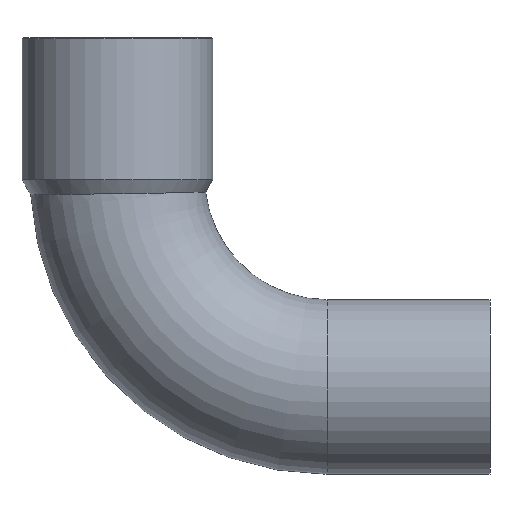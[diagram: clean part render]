
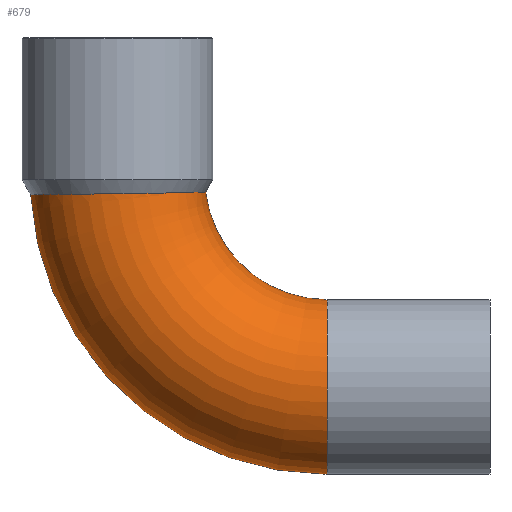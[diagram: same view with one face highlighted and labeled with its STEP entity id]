
A CAD part, front view. The second image highlights one B-rep face of the part: STEP entity #679.
In plain terms, the highlighted toroidal (fillet/blend) face has major radius 18 mm and minor radius 7.5 mm.
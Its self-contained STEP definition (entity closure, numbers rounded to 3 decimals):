
#49=CARTESIAN_POINT('',(-3.422,0.,-1.474));
#50=VERTEX_POINT('',#49);
#51=CARTESIAN_POINT('',(22.035,0.,-25.5));
#52=VERTEX_POINT('',#51);
#53=CARTESIAN_POINT('',(22.035,0.,0.0));
#54=DIRECTION('',(0.0,-1.0,0.0));
#55=DIRECTION('',(0.0,0.0,-1.0));
#56=AXIS2_PLACEMENT_3D('',#53,#54,#55);
#57=CIRCLE('',#56,25.5);
#58=EDGE_CURVE('',#50,#52,#57,.T.);
#60=CARTESIAN_POINT('',(11.612,0.,-1.267));
#61=VERTEX_POINT('',#60);
#85=CARTESIAN_POINT('',(22.035,0.,-10.5));
#86=VERTEX_POINT('',#85);
#87=CARTESIAN_POINT('',(22.035,0.,0.0));
#88=DIRECTION('',(0.0,1.0,0.0));
#89=DIRECTION('',(0.0,0.0,-1.0));
#90=AXIS2_PLACEMENT_3D('',#87,#88,#89);
#91=CIRCLE('',#90,10.5);
#92=EDGE_CURVE('',#86,#61,#91,.T.);
#210=CARTESIAN_POINT('',(11.612,0.,-1.267));
#211=CARTESIAN_POINT('',(11.612,-0.064,-1.267));
#212=CARTESIAN_POINT('',(11.611,-0.128,-1.267));
#213=CARTESIAN_POINT('',(11.584,-1.166,-1.268));
#214=CARTESIAN_POINT('',(11.369,-2.126,-1.273));
#215=CARTESIAN_POINT('',(10.58,-3.914,-1.292));
#216=CARTESIAN_POINT('',(10.013,-4.723,-1.304));
#217=CARTESIAN_POINT('',(8.599,-6.081,-1.332));
#218=CARTESIAN_POINT('',(7.765,-6.615,-1.347));
#219=CARTESIAN_POINT('',(5.94,-7.335,-1.375));
#220=CARTESIAN_POINT('',(4.966,-7.513,-1.389));
#221=CARTESIAN_POINT('',(3.007,-7.486,-1.413));
#222=CARTESIAN_POINT('',(2.04,-7.281,-1.424));
#223=CARTESIAN_POINT('',(0.24,-6.514,-1.442));
#224=CARTESIAN_POINT('',(-0.576,-5.959,-1.45));
#225=CARTESIAN_POINT('',(-1.948,-4.569,-1.462));
#226=CARTESIAN_POINT('',(-2.491,-3.747,-1.466));
#227=CARTESIAN_POINT('',(-3.232,-1.942,-1.472));
#228=CARTESIAN_POINT('',(-3.422,-0.975,-1.474));
#229=CARTESIAN_POINT('',(-3.422,0.,-1.474));
#230=B_SPLINE_CURVE_WITH_KNOTS('',3,(#210,#211,#212,#213,#214,#215,#216,#217,#218,#219,#220,#221,#222,#223,#224,#225,#226,#227,#228,#229),.UNSPECIFIED.,.F.,.U.,(4,2,2,2,2,2,2,2,2,4),(-2.366,-2.347,-2.055,-1.761,-1.467,-1.172,-0.879,-0.585,-0.293,0.0),.UNSPECIFIED.);
#231=EDGE_CURVE('',#61,#50,#230,.T.);
#535=CARTESIAN_POINT('',(22.035,0.,-18.0));
#536=DIRECTION('',(-1.0,0.0,0.0));
#537=DIRECTION('',(0.0,0.0,-1.0));
#538=AXIS2_PLACEMENT_3D('',#535,#536,#537);
#539=CIRCLE('',#538,7.5);
#540=EDGE_CURVE('',#52,#86,#539,.T.);
#668=CARTESIAN_POINT('',(22.035,0.,0.0));
#669=DIRECTION('',(0.0,-1.0,0.0));
#670=DIRECTION('',(0.0,0.0,-1.0));
#671=AXIS2_PLACEMENT_3D('',#668,#669,#670);
#672=TOROIDAL_SURFACE('',#671,18.0,7.5);
#673=ORIENTED_EDGE('',*,*,#58,.T.);
#674=ORIENTED_EDGE('',*,*,#540,.T.);
#675=ORIENTED_EDGE('',*,*,#92,.T.);
#676=ORIENTED_EDGE('',*,*,#231,.T.);
#677=EDGE_LOOP('',(#673,#674,#675,#676));
#678=FACE_OUTER_BOUND('',#677,.T.);
#679=ADVANCED_FACE('',(#678),#672,.T.);
